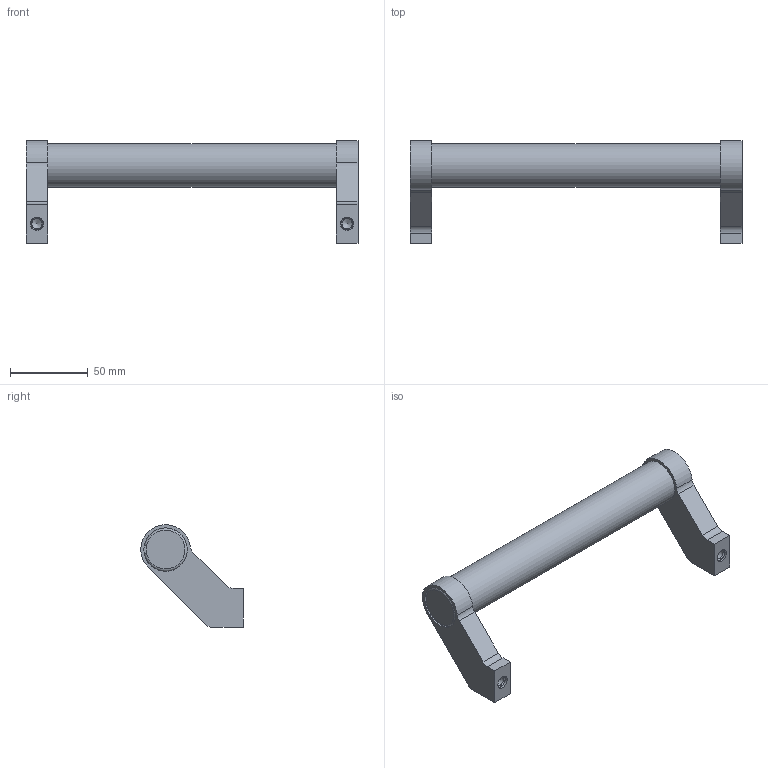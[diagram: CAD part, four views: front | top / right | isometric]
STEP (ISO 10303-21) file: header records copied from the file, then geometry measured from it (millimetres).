
FILE_DESCRIPTION( ( 'STEP AP203' ), '1' );
FILE_NAME( 'C:/Temp/Ganter_Step_05_03_2020/data/1_2/gn333/Tubular handle GN 333-28-200-A-ES.stp', '2020-03-05T10:16:12', ( 'License CC BY-ND 4.0' ), ( 'CADENAS' ), ' ', 'PARTsolutions', ' ' );
FILE_SCHEMA( ( 'CONFIG_CONTROL_DESIGN' ) );
Length unit declared in the file: millimetre
Products named in the file (1): _Tubular handle GN 333-28-200-A-ES
Bounding box: 214 x 65.95 x 65.97 mm (x, y, z)
Volume: 175071.4 mm3; surface area: 31059.8 mm2
Topology: 1 solids, 1 shells, 47 faces, 110 edges, 71 vertices
Faces by surface type: plane 26, cylinder 15, cone 4, torus 2
Full cylindrical faces by diameter (mm): 6.647 x2, 8.5 x2, 28 x3
Entity records: 1348 total; most frequent: CARTESIAN_POINT 278, DIRECTION 218, ORIENTED_EDGE 188, EDGE_CURVE 94, AXIS2_PLACEMENT_3D 84, VERTEX_POINT 68, EDGE_LOOP 64, FACE_OUTER_BOUND 54
